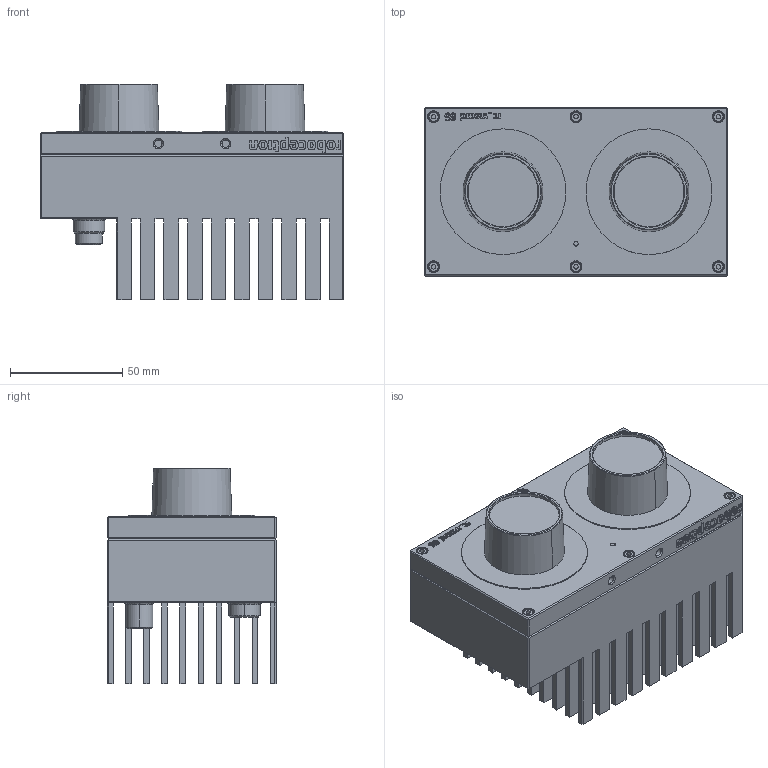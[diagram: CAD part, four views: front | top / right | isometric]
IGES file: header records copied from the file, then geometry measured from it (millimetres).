
Start section:  PTC IGES file: rc_visard65.igs
Global section: file name: rc_visard65.igs; native system: Creo Parametric by PTC Inc.; preprocessor: 2018500; author: seibold; organization: Unknown; date: 20200925.111250; units: millimetre
Bounding box: 135 x 75.24 x 96 mm (x, y, z)
Surface area: 136757.4 mm2 (no closed solid volume)
Topology: 0 solids, 0 shells, 1161 faces, 6082 edges, 6076 vertices
Faces by surface type: bspline 721, extrusion 296, revolution 144
